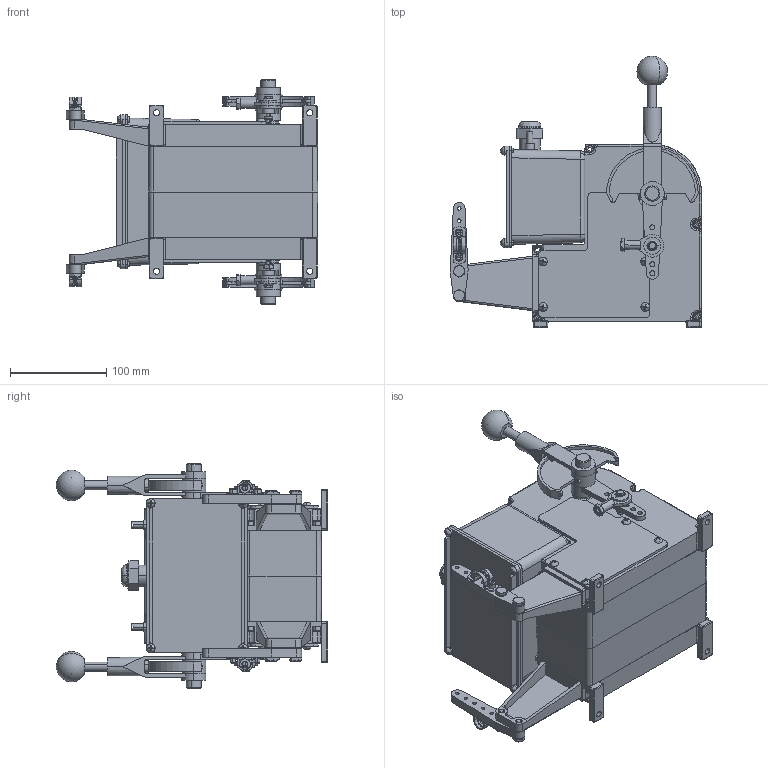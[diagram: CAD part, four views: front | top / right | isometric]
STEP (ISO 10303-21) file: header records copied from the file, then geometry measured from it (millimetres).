
FILE_DESCRIPTION (( 'STEP AP214' ), '1' );
FILE_NAME ('6527.STEP', '2019-11-14T20:47:48', ( '' ), ( '' ), 'SwSTEP 2.0', 'SolidWorks 2019', '' );
FILE_SCHEMA (( 'AUTOMOTIVE_DESIGN' ));
Length unit declared in the file: inch
Products named in the file (1): 6527
Bounding box: 261.24 x 282.02 x 233.04 mm (x, y, z)
Surface area: 403476.6 mm2 (no closed solid volume)
Topology: 0 solids, 105 shells, 1227 faces, 3944 edges, 2712 vertices
Faces by surface type: plane 517, cylinder 396, cone 178, bspline 78, torus 50, sphere 8
Entity records: 62877 total; most frequent: CARTESIAN_POINT 13352, DIRECTION 7051, ORIENTED_EDGE 6388, EDGE_CURVE 3899, VERTEX_POINT 2700, AXIS2_PLACEMENT_3D 2569, VECTOR 1913, LINE 1913
